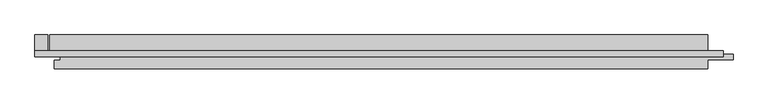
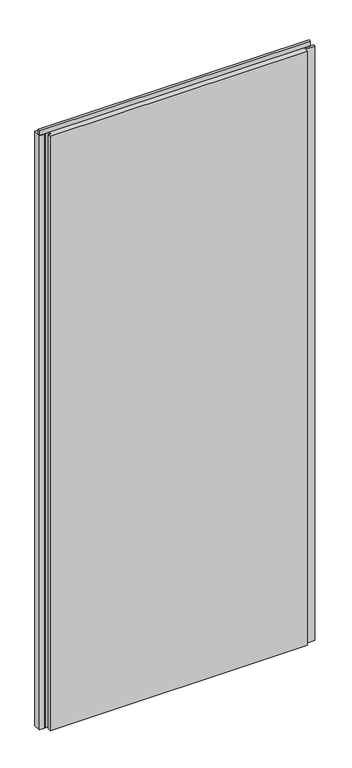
"""IFC4 building model written with IfcOpenShell, lengths in millimetres: plate geometry, Trimo_Qbiss Screen_Normal Panel-VERTICAL : HR - B."""

from ifc_helpers import new_model, si_unit, frame, origin, place, context, project, spatial, polyline, outline, extrude, source, transform, mapped, element, save


def plate_9d35d37b(model_context):
    return source(origin(), model_context, "Body", "SweptSolid", [
        extrude(outline(polyline([(-523.0, 97.0), (-523.0, 126.0), (-504.0, 126.0), (-504.0, 97.0), (-523.0, 97.0)])), frame((0.0, 0.0, 12.5), z_axis=(0.0, 0.0, 1.0), x_axis=(1.0, 0.0, 0.0)), (0.0, 0.0, 1.0), 2375.0),
        extrude(outline(polyline([(478.0, 97.0), (478.0, 102.6), (499.0, 102.6), (499.0, 97.0), (478.0, 97.0)])), frame((0.0, 0.0, 12.5), z_axis=(0.0, 0.0, 1.0), x_axis=(1.0, 0.0, 0.0)), (0.0, 0.0, 1.0), 2375.0),
        extrude(outline(polyline([(-523.0, 93.9), (-523.0, 102.6), (500.0, 102.6), (500.0, 93.9), (-523.0, 93.9)])), frame((0.0, 0.0, 2390.5), z_axis=(0.0, 0.0, 1.0), x_axis=(1.0, 0.0, 0.0)), (0.0, 0.0, 1.0), 19.0),
        extrude(outline(polyline([(477.0, 97.0), (514.5, 97.0), (514.5, 89.0), (477.0, 89.0), (477.0, 76.0), (-494.0, 76.0), (-494.0, 88.0), (-485.5, 88.0), (-485.5, 98.0), (-501.0, 98.0), (-501.0, 126.0), (477.0, 126.0), (477.0, 97.0)])), frame((0.0, 0.0, 12.5), z_axis=(0.0, 0.0, 1.0), x_axis=(1.0, 0.0, 0.0)), (0.0, 0.0, 1.0), 2375.0),
    ])


if __name__ == "__main__":
    model = new_model("IFC4")
    model_context = context("Model", 3, world=origin())
    ifc_project = project(units=[si_unit("LENGTHUNIT", "METRE", prefix="MILLI")], contexts=[model_context])
    site = spatial("IfcSite", under=ifc_project)
    building = spatial("IfcBuilding", under=site)
    placement = place(None, origin())
    plate_shape = plate_9d35d37b(model_context)
    element("IfcPlate", 1, ObjectType="Trimo_Qbiss Screen_Normal Panel-VERTICAL : HR - B", at=placement, inside=building, context=model_context, shape_type="MappedRepresentation", body=[
        mapped(plate_shape, transform((0.0, 0.0, 0.0), x_axis=(1.0, 0.0, 0.0), y_axis=(0.0, 1.0, 0.0), z_axis=(0.0, 0.0, 1.0))),
    ])
    save(model, "model.ifc")
